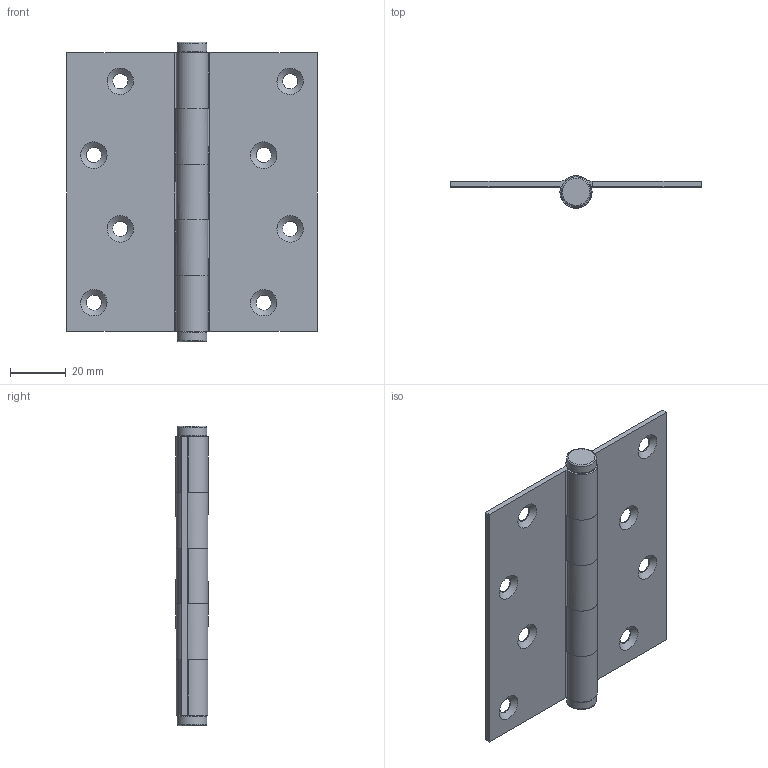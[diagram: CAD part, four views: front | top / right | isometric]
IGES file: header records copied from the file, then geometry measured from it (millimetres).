
Global section: file name: DR_HH10090-20; native system: Autodesk Inventor 2015; preprocessor: unknown; author: Administrator; date: 20170816.152520; units: millimetre
Bounding box: 90 x 11.49 x 107.6 mm (x, y, z)
Volume: 26062.5 mm3; surface area: 25975.1 mm2
Topology: 3 solids, 3 shells, 69 faces, 201 edges, 140 vertices
Faces by surface type: bspline 69
